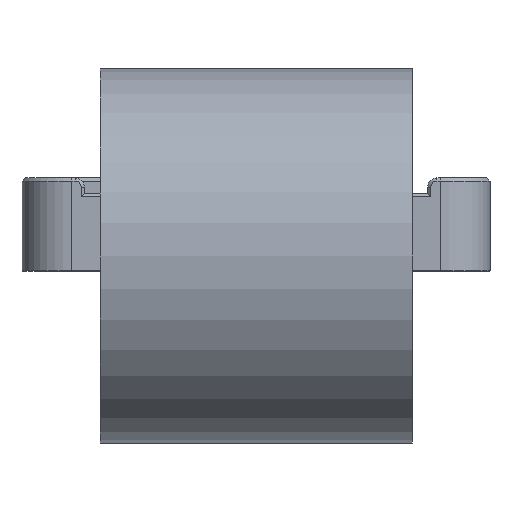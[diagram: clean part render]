
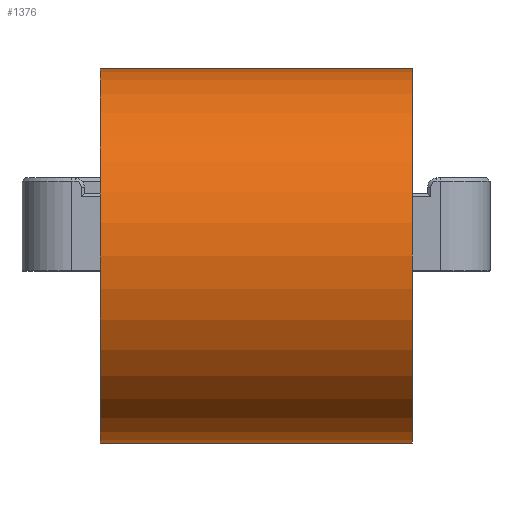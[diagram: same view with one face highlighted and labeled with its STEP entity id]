
A CAD part, front view. The second image highlights one B-rep face of the part: STEP entity #1376.
In plain terms, the highlighted cylindrical face has radius 60 mm (diameter 120 mm), a full revolution.
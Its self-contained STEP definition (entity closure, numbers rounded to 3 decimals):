
#127=FACE_OUTER_BOUND('',#217,.T.);
#217=EDGE_LOOP('',(#976,#977,#978,#979));
#305=LINE('',#2120,#451);
#451=VECTOR('',#1683,60.);
#600=CIRCLE('',#1512,60.);
#601=CIRCLE('',#1513,60.);
#652=VERTEX_POINT('',#2117);
#653=VERTEX_POINT('',#2119);
#771=EDGE_CURVE('',#652,#652,#600,.T.);
#772=EDGE_CURVE('',#652,#653,#305,.T.);
#773=EDGE_CURVE('',#653,#653,#601,.T.);
#976=ORIENTED_EDGE('',*,*,#771,.F.);
#977=ORIENTED_EDGE('',*,*,#772,.T.);
#978=ORIENTED_EDGE('',*,*,#773,.T.);
#979=ORIENTED_EDGE('',*,*,#772,.F.);
#1359=CYLINDRICAL_SURFACE('',#1511,60.);
#1376=ADVANCED_FACE('',(#127),#1359,.T.);
#1511=AXIS2_PLACEMENT_3D('',#2116,#1679,#1680);
#1512=AXIS2_PLACEMENT_3D('',#2118,#1681,#1682);
#1513=AXIS2_PLACEMENT_3D('',#2121,#1684,#1685);
#1679=DIRECTION('center_axis',(0.,0.,1.));
#1680=DIRECTION('ref_axis',(1.,0.,0.));
#1681=DIRECTION('center_axis',(0.,0.,1.));
#1682=DIRECTION('ref_axis',(1.,0.,0.));
#1683=DIRECTION('',(0.,0.,-1.));
#1684=DIRECTION('center_axis',(0.,0.,1.));
#1685=DIRECTION('ref_axis',(1.,0.,0.));
#2116=CARTESIAN_POINT('Origin',(0.,0.,0.));
#2117=CARTESIAN_POINT('',(-60.,0.,100.));
#2118=CARTESIAN_POINT('Origin',(0.,0.,100.));
#2119=CARTESIAN_POINT('',(-60.,0.,0.));
#2120=CARTESIAN_POINT('',(-60.,0.,0.));
#2121=CARTESIAN_POINT('Origin',(0.,0.,0.));
